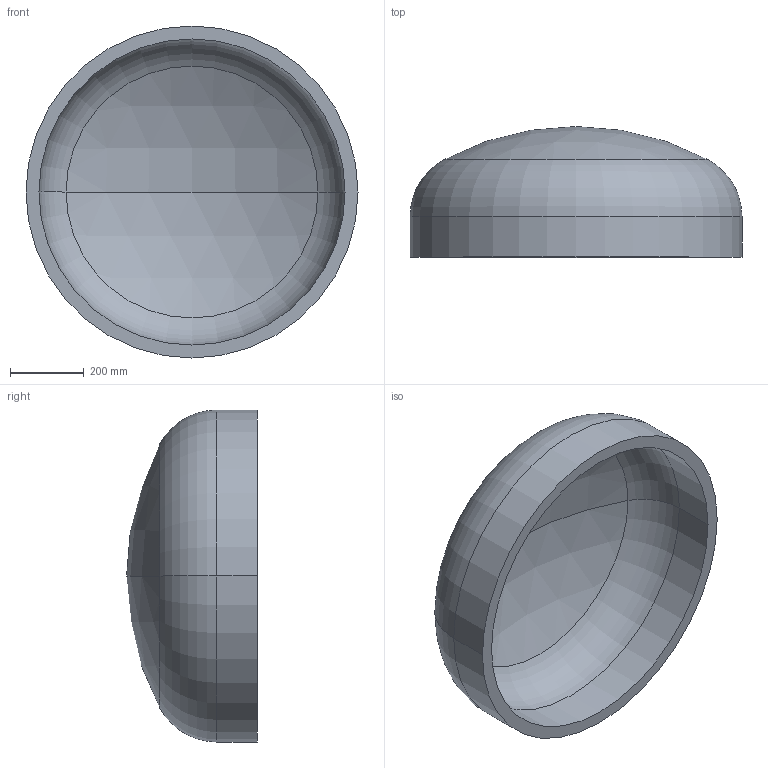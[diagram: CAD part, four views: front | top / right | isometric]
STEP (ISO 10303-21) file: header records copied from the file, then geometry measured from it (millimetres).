
FILE_DESCRIPTION (( 'STEP AP203' ), '1' );
FILE_NAME ('DIN 28013 Korbbogenform_-_Boden DIN 28013 - 900 x 110 - I - s=35.step', '2016-07-01T08:30:18', ( '' ), ( '' ), 'SwSTEP 2.0', 'SolidWorks 2013', '' );
FILE_SCHEMA (( 'CONFIG_CONTROL_DESIGN' ));
Length unit declared in the file: millimetre
Products named in the file (1): DIN 28013 Korbbogenform_-_Boden DIN 28013 - 900 x 110 - I - s=35
Bounding box: 900 x 354.34 x 900 mm (x, y, z)
Volume: 39843736.3 mm3; surface area: 2374461.7 mm2
Topology: 1 solids, 1 shells, 13 faces, 24 edges, 14 vertices
Faces by surface type: torus 4, cylinder 4, sphere 4, plane 1
Entity records: 407 total; most frequent: DIRECTION 72, CARTESIAN_POINT 52, ORIENTED_EDGE 48, AXIS2_PLACEMENT_3D 34, EDGE_CURVE 24, CIRCLE 20, EDGE_LOOP 14, VERTEX_POINT 14
